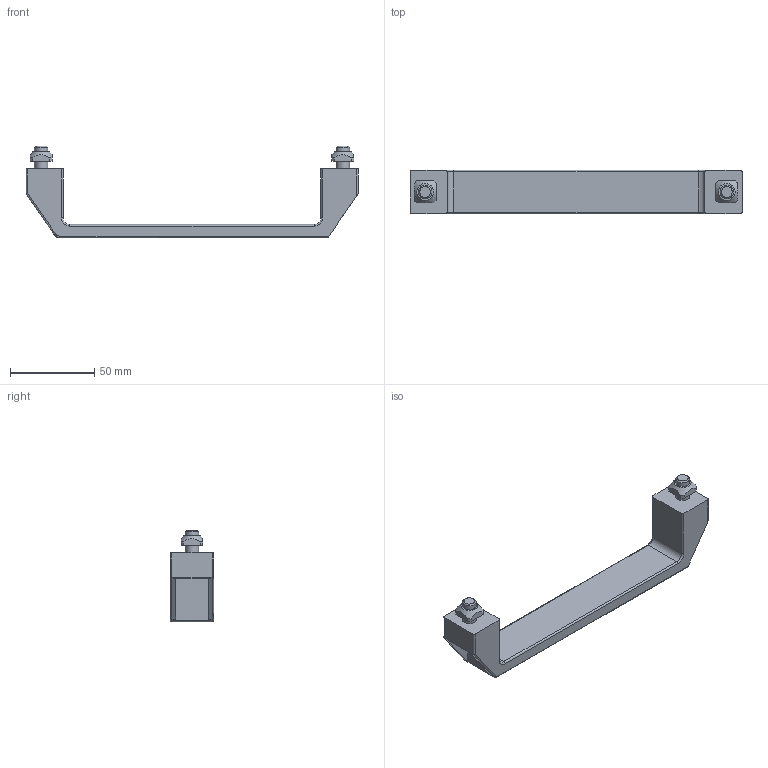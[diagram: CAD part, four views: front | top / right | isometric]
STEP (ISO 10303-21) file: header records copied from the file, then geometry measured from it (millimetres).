
FILE_DESCRIPTION((''),'2;1');
FILE_NAME('C:\Documents and Settings\Administrator\My Documents\Andys Backup Data\ANDY''S INVENTOR\INVENTOR LIBRARIES\MINITEC INVENTOR LIBRARIES\HANDLES LOCKS STOPS\A PACKED FILES\STEP FILES\21.1094_1 HANDLE 180 GRAY.stp','2010-06-25T11:00:44',('Administrator'),(''),'Autodesk Inventor 2009','Autodesk Inventor 2009','');
FILE_SCHEMA(('AUTOMOTIVE_DESIGN { 1 0 10303 214 1 1 1 1 }'));
Length unit declared in the file: millimetre
Products named in the file (4): 21.1094_1 HANDLE 180 GRAY; 21.1202  M8 x 20; 21.1351 M8 SQUARE NUT
Assembly tree (5 placements, depth 2):
  21.1094_1 HANDLE 180 GRAY
    21.1094_1 HANDLE 180 GRAY
    21.1202  M8 x 20  x2
    21.1351 M8 SQUARE NUT  x2
Bounding box: 197 x 26 x 54.5 mm (x, y, z)
Volume: 59129.1 mm3; surface area: 23395.9 mm2
Topology: 5 solids, 5 shells, 110 faces, 260 edges, 164 vertices
Faces by surface type: plane 62, cylinder 30, torus 8, cone 6, sphere 3, bspline 1
Full cylindrical faces by diameter (mm): 8 x4, 8.5 x2, 13 x4
Entity records: 2457 total; most frequent: CARTESIAN_POINT 432, DIRECTION 425, ORIENTED_EDGE 370, EDGE_CURVE 185, AXIS2_PLACEMENT_3D 162, VERTEX_POINT 121, EDGE_LOOP 104, VECTOR 101
